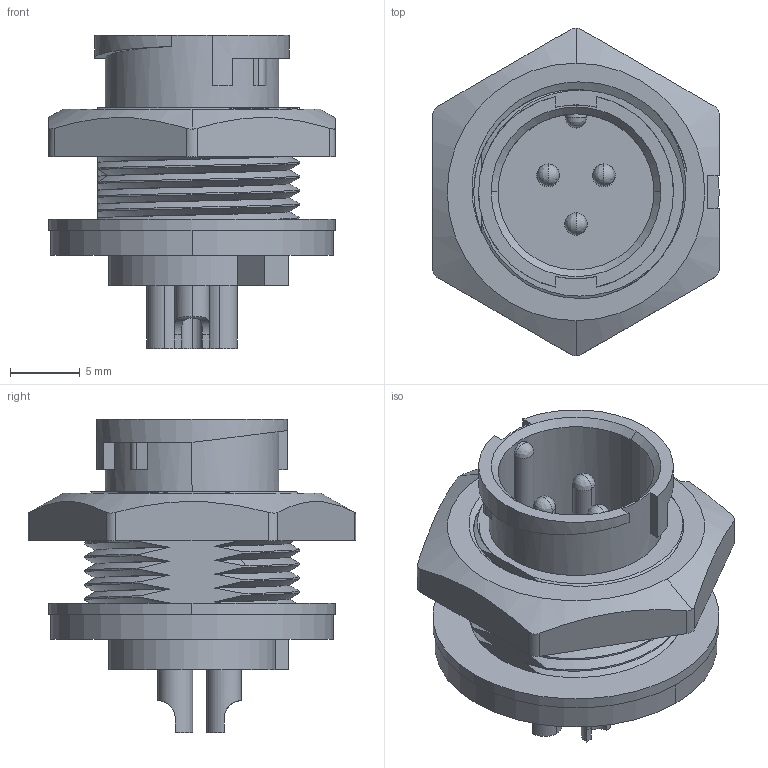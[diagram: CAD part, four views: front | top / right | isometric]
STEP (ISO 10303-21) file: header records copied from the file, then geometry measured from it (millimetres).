
FILE_DESCRIPTION (( 'STEP AP203' ), '1' );
FILE_NAME ('869-03A-103R001.STEP', '2024-06-14T18:23:28', ( '' ), ( '' ), 'SwSTEP 2.0', 'SolidWorks 2020', '' );
FILE_SCHEMA (( 'CONFIG_CONTROL_DESIGN' ));
Length unit declared in the file: millimetre
Products named in the file (1): 869-03A-103R001
Bounding box: 20.6 x 23.54 x 22.5 mm (x, y, z)
Volume: 2673.8 mm3; surface area: 3435.7 mm2
Topology: 1 solids, 1 shells, 213 faces, 605 edges, 381 vertices
Faces by surface type: cylinder 78, plane 55, bspline 51, cone 29
Entity records: 13413 total; most frequent: CARTESIAN_POINT 8437, ORIENTED_EDGE 1170, DIRECTION 802, EDGE_CURVE 585, VERTEX_POINT 381, AXIS2_PLACEMENT_3D 309, B_SPLINE_CURVE_WITH_KNOTS 255, EDGE_LOOP 230
